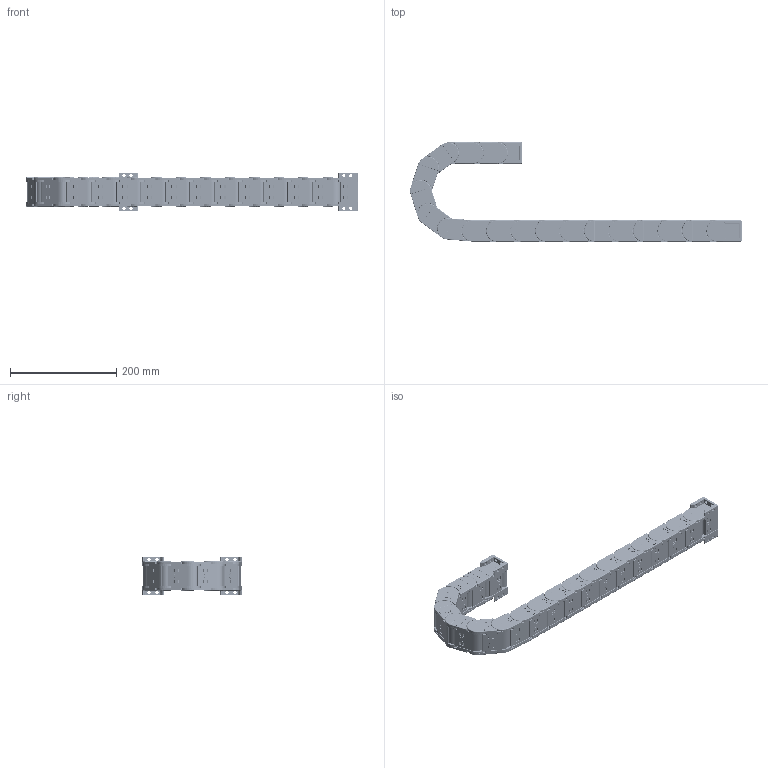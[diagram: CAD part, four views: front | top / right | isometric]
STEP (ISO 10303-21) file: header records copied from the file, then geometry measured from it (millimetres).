
FILE_DESCRIPTION (( 'STEP AP203' ), '1' );
FILE_NAME ('J25F.1.38S猾敕宒--俋耜羲.STEP', '2017-12-16T03:09:15', ( '' ), ( '' ), 'SwSTEP 2.0', 'SolidWorks 2016', '' );
FILE_SCHEMA (( 'CONFIG_CONTROL_DESIGN' ));
Length unit declared in the file: millimetre
Products named in the file (10): N25X57-增强3D-1 - 副本; 25-崝Ч源諉芛囀; N25X75-囀諉芛 - 萵掛; 25-崝Ч源諉芛俋; N25X75-俋諉芛 - 萵掛; 25-崝Ч翋极1; J25F.1.38S猾敕宒--俋耜羲; 25-崝Ч翋极2; N25-囀猾敕え; N25-俋猾敕え.2
Assembly tree (31 placements, depth 3):
  J25F.1.38S猾敕宒--俋耜羲
    N25X57-增强3D-1 - 副本  x17
      25-崝Ч翋极1
      25-崝Ч翋极2
      N25-囀猾敕え
      N25-俋猾敕え.2
    N25X75-囀諉芛 - 萵掛
      25-崝Ч源諉芛囀  x2
      N25-囀猾敕え  x2
    N25X75-俋諉芛 - 萵掛
      25-崝Ч源諉芛俋  x2
      N25-囀猾敕え  x2
Bounding box: 623.94 x 186.39 x 72 mm (x, y, z)
Volume: 776155 mm3; surface area: 532078.2 mm2
Topology: 76 solids, 76 shells, 19781 faces, 53747 edges, 34150 vertices
Faces by surface type: plane 8811, cylinder 5690, bspline 3842, torus 1360, sphere 78
Entity records: 49575 total; most frequent: CARTESIAN_POINT 17331, ORIENTED_EDGE 6766, DIRECTION 5911, EDGE_CURVE 3383, VERTEX_POINT 2166, AXIS2_PLACEMENT_3D 1973, LINE 1965, VECTOR 1965
